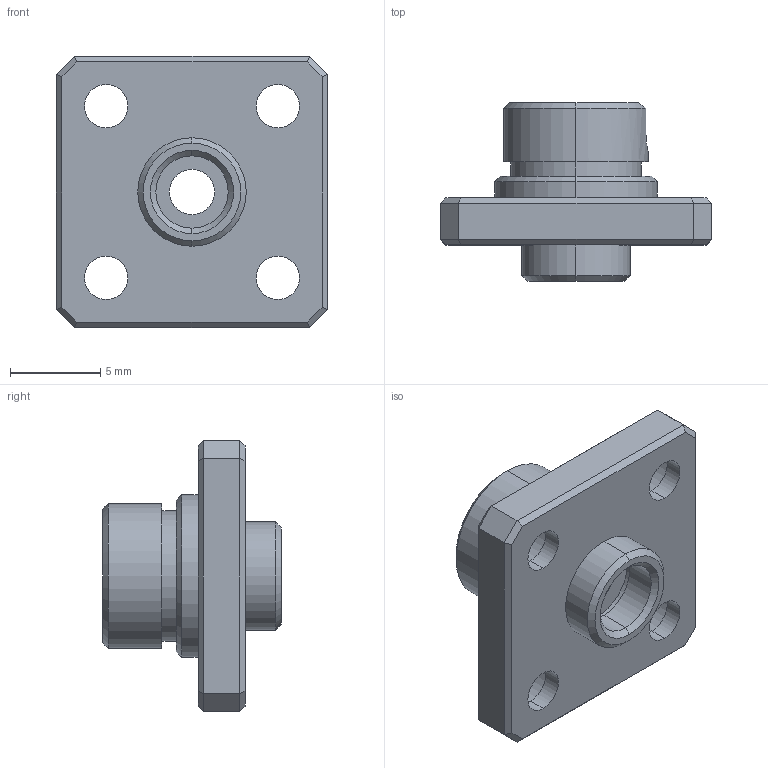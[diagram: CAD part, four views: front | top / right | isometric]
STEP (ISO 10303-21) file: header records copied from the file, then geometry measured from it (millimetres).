
FILE_DESCRIPTION (( 'STEP AP214' ), '1' );
FILE_NAME ('嫖玹楊擘.STEP', '2026-10-12T05:25:22', ( '' ), ( '' ), 'SwSTEP 2.0', 'SolidWorks 2024', '' );
FILE_SCHEMA (( 'AUTOMOTIVE_DESIGN' ));
Length unit declared in the file: millimetre
Products named in the file (1): 光纤法兰
Bounding box: 15 x 9.87 x 15 mm (x, y, z)
Volume: 635.8 mm3; surface area: 947.6 mm2
Topology: 1 solids, 1 shells, 86 faces, 192 edges, 118 vertices
Faces by surface type: plane 41, cylinder 33, cone 12
Entity records: 2451 total; most frequent: CARTESIAN_POINT 443, DIRECTION 438, ORIENTED_EDGE 384, EDGE_CURVE 192, AXIS2_PLACEMENT_3D 165, VERTEX_POINT 118, LINE 108, VECTOR 108
